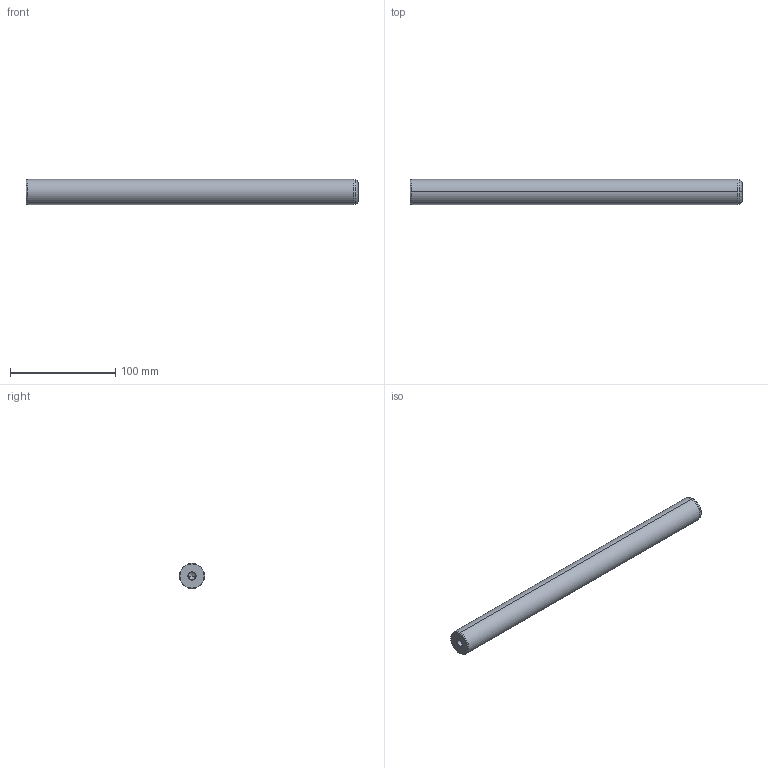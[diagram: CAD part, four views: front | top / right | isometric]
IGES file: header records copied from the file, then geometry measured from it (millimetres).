
Start section: START RECORD GO HERE.
Global section: file name: 720-24x315.igs; native system: DASSAULT SYSTEMES CATIA V5 R20 - www.3ds.com; preprocessor: CATIA Version 5 Release 20 ; author: Utente; organization: NB04-ASUS; date: 20210101.134901; units: millimetre
Bounding box: 315 x 24 x 24 mm (x, y, z)
Surface area: 25490.5 mm2 (no closed solid volume)
Topology: 0 solids, 0 shells, 22 faces, 120 edges, 116 vertices
Faces by surface type: revolution 20, plane 2
